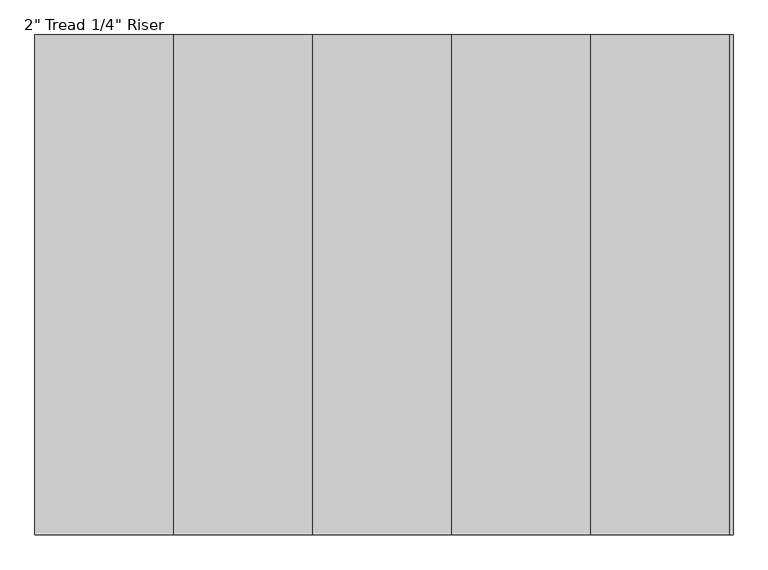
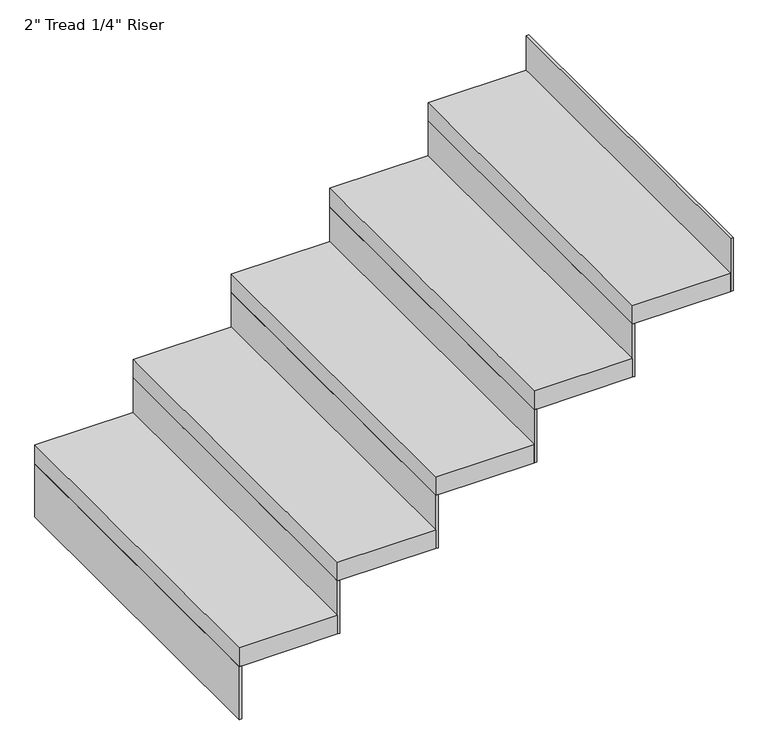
"""IFC4 building model written with IfcOpenShell, lengths in millimetres: stair flight geometry."""

from ifc_helpers import new_model, si_unit, frame, origin, place, context, project, spatial, polyline, outline, extrude, source, transform, mapped, element, save


def stair_flight_8c9df97d(model_context):
    return source(origin(), model_context, "Body", "SweptSolid", [
        extrude(outline(polyline([(113733.4236551, -18859.8846057), (113727.0736551, -18859.8846057), (113727.0736551, -17945.4846057), (113733.4236551, -17945.4846057), (113733.4236551, -18859.8846057)])), frame((0.0, 0.0, 2126.3428571), z_axis=(0.0, 0.0, 1.0), x_axis=(1.0, 0.0, 0.0)), (0.0, 0.0, 1.0), 145.1428571),
        extrude(outline(polyline([(113981.0736551, -17945.4846057), (113981.0736551, -18859.8846057), (113727.0736551, -18859.8846057), (113727.0736551, -17945.4846057), (113981.0736551, -17945.4846057)])), frame((0.0, 0.0, 2271.4857143), z_axis=(0.0, 0.0, 1.0), x_axis=(1.0, 0.0, 0.0)), (0.0, 0.0, 1.0), 50.8),
        extrude(outline(polyline([(113987.4236551, -18859.8846057), (113981.0736551, -18859.8846057), (113981.0736551, -17945.4846057), (113987.4236551, -17945.4846057), (113987.4236551, -18859.8846057)])), frame((0.0, 0.0, 2271.4857143), z_axis=(0.0, 0.0, 1.0), x_axis=(1.0, 0.0, 0.0)), (0.0, 0.0, 1.0), 145.1428571),
        extrude(outline(polyline([(114235.0736551, -17945.4846057), (114235.0736551, -18859.8846057), (113981.0736551, -18859.8846057), (113981.0736551, -17945.4846057), (114235.0736551, -17945.4846057)])), frame((0.0, 0.0, 2416.6285714), z_axis=(0.0, 0.0, 1.0), x_axis=(1.0, 0.0, 0.0)), (0.0, 0.0, 1.0), 50.8),
        extrude(outline(polyline([(114241.4236551, -18859.8846057), (114235.0736551, -18859.8846057), (114235.0736551, -17945.4846057), (114241.4236551, -17945.4846057), (114241.4236551, -18859.8846057)])), frame((0.0, 0.0, 2416.6285714), z_axis=(0.0, 0.0, 1.0), x_axis=(1.0, 0.0, 0.0)), (0.0, 0.0, 1.0), 145.1428571),
        extrude(outline(polyline([(114489.0736551, -17945.4846057), (114489.0736551, -18859.8846057), (114235.0736551, -18859.8846057), (114235.0736551, -17945.4846057), (114489.0736551, -17945.4846057)])), frame((0.0, 0.0, 2561.7714286), z_axis=(0.0, 0.0, 1.0), x_axis=(1.0, 0.0, 0.0)), (0.0, 0.0, 1.0), 50.8),
        extrude(outline(polyline([(114495.4236551, -18859.8846057), (114489.0736551, -18859.8846057), (114489.0736551, -17945.4846057), (114495.4236551, -17945.4846057), (114495.4236551, -18859.8846057)])), frame((0.0, 0.0, 2561.7714286), z_axis=(0.0, 0.0, 1.0), x_axis=(1.0, 0.0, 0.0)), (0.0, 0.0, 1.0), 145.1428571),
        extrude(outline(polyline([(114743.0736551, -17945.4846057), (114743.0736551, -18859.8846057), (114489.0736551, -18859.8846057), (114489.0736551, -17945.4846057), (114743.0736551, -17945.4846057)])), frame((0.0, 0.0, 2706.9142857), z_axis=(0.0, 0.0, 1.0), x_axis=(1.0, 0.0, 0.0)), (0.0, 0.0, 1.0), 50.8),
        extrude(outline(polyline([(114749.4236551, -18859.8846057), (114743.0736551, -18859.8846057), (114743.0736551, -17945.4846057), (114749.4236551, -17945.4846057), (114749.4236551, -18859.8846057)])), frame((0.0, 0.0, 2706.9142857), z_axis=(0.0, 0.0, 1.0), x_axis=(1.0, 0.0, 0.0)), (0.0, 0.0, 1.0), 145.1428571),
        extrude(outline(polyline([(115003.4236551, -18859.8846057), (114997.0736551, -18859.8846057), (114997.0736551, -17945.4846057), (115003.4236551, -17945.4846057), (115003.4236551, -18859.8846057)])), frame((0.0, 0.0, 2852.0571429), z_axis=(0.0, 0.0, 1.0), x_axis=(1.0, 0.0, 0.0)), (0.0, 0.0, 1.0), 145.1428571),
        extrude(outline(polyline([(114997.0736551, -17945.4846057), (114997.0736551, -18859.8846057), (114743.0736551, -18859.8846057), (114743.0736551, -17945.4846057), (114997.0736551, -17945.4846057)])), frame((0.0, 0.0, 2852.0571429), z_axis=(0.0, 0.0, 1.0), x_axis=(1.0, 0.0, 0.0)), (0.0, 0.0, 1.0), 50.8),
    ])


if __name__ == "__main__":
    model = new_model("IFC4")
    model_context = context("Model", 3, world=origin())
    ifc_project = project(units=[si_unit("LENGTHUNIT", "METRE", prefix="MILLI")], contexts=[model_context])
    site = spatial("IfcSite", under=ifc_project)
    building = spatial("IfcBuilding", under=site)
    placement = place(None, origin())
    stair_flight_shape = stair_flight_8c9df97d(model_context)
    element("IfcStairFlight", 1, ObjectType="2\" Tread 1/4\" Riser", at=placement, inside=building, context=model_context, shape_type="MappedRepresentation", body=[
        mapped(stair_flight_shape, transform((0.0, 0.0, 0.0), x_axis=(1.0, 0.0, 0.0), y_axis=(0.0, 1.0, 0.0), z_axis=(0.0, 0.0, 1.0))),
    ])
    save(model, "model.ifc")
